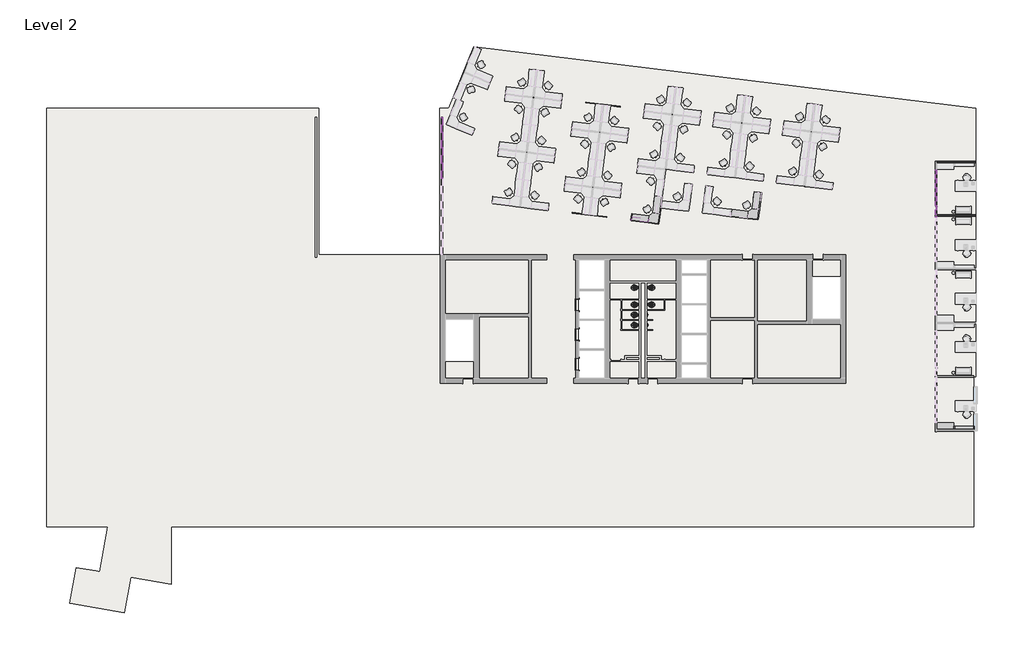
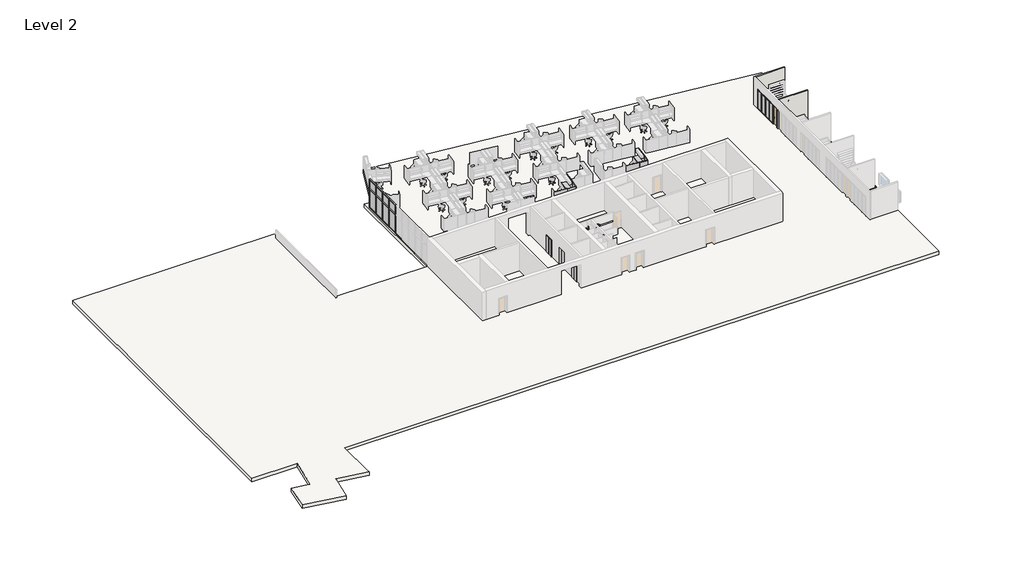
# One storey, part 4 of 7: 51 members, 17 plates, 8 flow terminals, 5 furniture elements, 3 proxies, 3 walls, 1 door, 1 slab.
"""IFC4 building model written with IfcOpenShell, lengths in millimetres."""

from ifc_helpers import new_model, si_unit, frame, origin, place, context, project, spatial, polyline, outline, extrude, faceted_brep, transform, mapped, element, save
from components import proxy_7fed659c, curtain_wall_sgl_glass_curtain_wall_sgl_glass_5192a5a3, flow_terminal_184afdea, flow_terminal_4365df9b, urinal_wall_3d_urinal_wall_3d_30f61b9e, furniture_894c625b, overhead_shelving_module_overhead_shelving_module_7dcda1b9, furniture_6d145fab, furniture_7b33082a, member_9597caa3, member_b2bde9e6, member_ee409385, member_7ffbafd8, member_47ea2df9, member_5507c937, member_0e55f5ff, member_6d48148e, member_7899ddbe, member_c64c2408, member_866a01fa, member_fbf8c6f0, member_13474e0d, member_d7472725, system_panel_glazed_f9de1280, system_panel_glazed_6896c6c0, system_panel_glazed_7f340023, system_panel_glazed_f79f5f4b, system_panel_glazed_02b69887, system_panel_glazed_e5c5d69c

model = new_model("IFC4")

# Units and contexts
model_context = context("Model", 3, world=origin())
ifc_project = project(units=[si_unit("LENGTHUNIT", "METRE", prefix="MILLI")], contexts=[model_context])

# Site, building, storey
site = spatial("IfcSite", under=ifc_project)
building = spatial("IfcBuilding", under=site)
storey = spatial("IfcBuildingStorey", under=building, Name="Level 2", Elevation=3657.6)

# Proxies
placement = place(None, origin())
proxy_shape = proxy_7fed659c(model_context)
element("IfcBuildingElementProxy", 1, Name="Elevator%20Door-Center[1] : 42\" x 84\"", ObjectType="Elevator%20Door-Center[1] : 42\" x 84\"", at=placement, inside=storey, context=model_context, shape_type="MappedRepresentation", body=[
    mapped(proxy_shape, transform((-20852.1285069, -7663.0747049, 3657.6), x_axis=(0.0, 1.0, 0.0), y_axis=(-1.0, 0.0, 0.0), z_axis=(0.0, 0.0, 1.0))),
])
element("IfcBuildingElementProxy", 2, Name="Elevator%20Door-Center[1] : 42\" x 84\"", ObjectType="Elevator%20Door-Center[1] : 42\" x 84\"", at=placement, inside=storey, context=model_context, shape_type="MappedRepresentation", body=[
    mapped(proxy_shape, transform((-20852.1285069, -10330.0747049, 3657.6), x_axis=(0.0, 1.0, 0.0), y_axis=(-1.0, 0.0, 0.0), z_axis=(0.0, 0.0, 1.0))),
])
element("IfcBuildingElementProxy", 3, Name="Elevator%20Door-Center[1] : 42\" x 84\"", ObjectType="Elevator%20Door-Center[1] : 42\" x 84\"", at=placement, inside=storey, context=model_context, shape_type="MappedRepresentation", body=[
    mapped(proxy_shape, transform((-20852.1285069, -12997.0747049, 3657.6), x_axis=(0.0, 1.0, 0.0), y_axis=(-1.0, 0.0, 0.0), z_axis=(0.0, 0.0, 1.0))),
])

# Door
curtain_wall_sgl_glass_curtain_wall_sgl_glass_shape = curtain_wall_sgl_glass_curtain_wall_sgl_glass_5192a5a3(model_context)
element("IfcDoor", 4, ObjectType="Curtain Wall Sgl Glass : Curtain Wall Sgl Glass", at=placement, inside=storey, context=model_context, shape_type="MappedRepresentation", body=[
    mapped(curtain_wall_sgl_glass_curtain_wall_sgl_glass_shape, transform((11449.2054088, 794.2100525, 3657.6), x_axis=(0.0, -1.0, 0.0), y_axis=(1.0, 0.0, 0.0), z_axis=(0.0, 0.0, 1.0))),
])

# Flow terminals
flow_terminal_shape = flow_terminal_184afdea(model_context)
element("IfcFlowTerminal", 5, ObjectType="Toilet-Commercial-Wall-3D : 15\" Seat Height", at=placement, inside=storey, context=model_context, shape_type="MappedRepresentation", body=[
    mapped(flow_terminal_shape, transform((-14687.1856498, -7335.0821954, 3657.6), x_axis=(0.0, -1.0, 0.0), y_axis=(1.0, 0.0, 0.0), z_axis=(0.0, 0.0, 1.0))),
])
element("IfcFlowTerminal", 6, ObjectType="Toilet-Commercial-Wall-3D : 15\" Seat Height", at=placement, inside=storey, context=model_context, shape_type="MappedRepresentation", body=[
    mapped(flow_terminal_shape, transform((-14687.1856498, -5795.2071954, 3657.6), x_axis=(0.0, -1.0, 0.0), y_axis=(1.0, 0.0, 0.0), z_axis=(0.0, 0.0, 1.0))),
])
flow_terminal_2_shape = flow_terminal_4365df9b(model_context)
element("IfcFlowTerminal", 7, ObjectType="Toilet-Commercial-Wall-3D : 15\" Seat Height", at=placement, inside=storey, context=model_context, shape_type="MappedRepresentation", body=[
    mapped(flow_terminal_2_shape, transform((-15195.1856498, -9163.8821954, 3657.6), x_axis=(0.0, -1.0, 0.0), y_axis=(1.0, 0.0, 0.0), z_axis=(0.0, 0.0, 1.0))),
])
element("IfcFlowTerminal", 8, ObjectType="Toilet-Commercial-Wall-3D : 15\" Seat Height", at=placement, inside=storey, context=model_context, shape_type="MappedRepresentation", body=[
    mapped(flow_terminal_2_shape, transform((-15195.1856498, -7335.0821954, 3657.6), x_axis=(0.0, -1.0, 0.0), y_axis=(1.0, 0.0, 0.0), z_axis=(0.0, 0.0, 1.0))),
])
element("IfcFlowTerminal", 9, ObjectType="Toilet-Commercial-Wall-3D : 15\" Seat Height", at=placement, inside=storey, context=model_context, shape_type="MappedRepresentation", body=[
    mapped(flow_terminal_2_shape, transform((-15195.1856498, -5795.2071954, 3657.6), x_axis=(0.0, -1.0, 0.0), y_axis=(1.0, 0.0, 0.0), z_axis=(0.0, 0.0, 1.0))),
])
element("IfcFlowTerminal", 10, ObjectType="Toilet-Commercial-Wall-3D : 15\" Seat Height", at=placement, inside=storey, context=model_context, shape_type="MappedRepresentation", body=[
    mapped(flow_terminal_2_shape, transform((-15195.1856498, -8249.4821954, 3657.6), x_axis=(0.0, -1.0, 0.0), y_axis=(1.0, 0.0, 0.0), z_axis=(0.0, 0.0, 1.0))),
])
urinal_wall_3d_urinal_wall_3d_shape = urinal_wall_3d_urinal_wall_3d_30f61b9e(model_context)
element("IfcFlowTerminal", 11, ObjectType="Urinal-Wall-3D : Urinal-Wall-3D", at=placement, inside=storey, context=model_context, shape_type="MappedRepresentation", body=[
    mapped(urinal_wall_3d_urinal_wall_3d_shape, transform((-14687.1856498, -9677.6027747, 3048.0), x_axis=(0.0, -1.0, 0.0), y_axis=(1.0, 0.0, 0.0), z_axis=(0.0, 0.0, 1.0))),
])
element("IfcFlowTerminal", 12, ObjectType="Urinal-Wall-3D : Urinal-Wall-3D", at=placement, inside=storey, context=model_context, shape_type="MappedRepresentation", body=[
    mapped(urinal_wall_3d_urinal_wall_3d_shape, transform((-14687.1856498, -8763.2027747, 3048.0), x_axis=(0.0, -1.0, 0.0), y_axis=(1.0, 0.0, 0.0), z_axis=(0.0, 0.0, 1.0))),
])

# Furniture
furniture_shape = furniture_894c625b(model_context)
element("IfcFurniture", 13, ObjectType="Credenza : 60\" x 24\"", at=placement, inside=storey, context=model_context, shape_type="MappedRepresentation", body=[
    mapped(furniture_shape, transform((12221.5111465, -18676.6574776, 3657.6), x_axis=(1.0, 0.0, 0.0), y_axis=(0.0, 1.0, 0.0), z_axis=(0.0, 0.0, 1.0))),
])
overhead_shelving_module_overhead_shelving_module_shape = overhead_shelving_module_overhead_shelving_module_7dcda1b9(model_context)
element("IfcFurniture", 14, ObjectType="Overhead Shelving Module : Overhead Shelving Module", at=placement, inside=storey, context=model_context, shape_type="MappedRepresentation", body=[
    mapped(overhead_shelving_module_overhead_shelving_module_shape, transform((-15035.7996968, -17.0868363, 3505.2), x_axis=(0.9925461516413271, -0.12186934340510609, 0.0), y_axis=(0.12186934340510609, 0.9925461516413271, 0.0), z_axis=(0.0, 0.0, 1.0))),
])
furniture_2_shape = furniture_6d145fab(model_context)
element("IfcFurniture", 15, ObjectType="Shelving : 96\" x 12\" x 84\"", at=placement, inside=storey, context=model_context, shape_type="MappedRepresentation", body=[
    mapped(furniture_2_shape, transform((13982.8554088, -19129.2771498, 3657.6), x_axis=(1.0, 0.0, 0.0), y_axis=(0.0, 1.0, 0.0), z_axis=(0.0, 0.0, 1.0))),
])
furniture_3_shape = furniture_7b33082a(model_context)
element("IfcFurniture", 16, ObjectType="Work Station Cubicle : 96\" x 96\"", at=placement, inside=storey, context=model_context, shape_type="MappedRepresentation", body=[
    mapped(furniture_3_shape, transform((-13005.6651945, -422.753661, 3657.6), x_axis=(0.12186934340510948, 0.9925461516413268, 0.0), y_axis=(-0.9925461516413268, 0.12186934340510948, 0.0), z_axis=(0.0, 0.0, 1.0))),
])
element("IfcFurniture", 17, ObjectType="Work Station Cubicle : 96\" x 96\"", at=placement, inside=storey, context=model_context, shape_type="MappedRepresentation", body=[
    mapped(furniture_3_shape, transform((-4053.6335534, -44.4423201, 3657.6), x_axis=(0.1218693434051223, 0.9925461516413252, 0.0), y_axis=(-0.9925461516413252, 0.1218693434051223, 0.0), z_axis=(0.0, 0.0, 1.0))),
])

# Members
member_shape = member_9597caa3(model_context)
element("IfcMember", 18, ObjectType="Rectangular Mullion : 2.5\" x 5\" rectangular", at=placement, inside=storey, context=model_context, shape_type="MappedRepresentation", body=[
    mapped(member_shape, transform((11449.2054088, 1195.5300525, 3721.1), x_axis=(0.0, 1.0, 0.0), y_axis=(1.0, 0.0, 0.0), z_axis=(0.0, 0.0, -1.0))),
])
element("IfcMember", 19, ObjectType="Rectangular Mullion : 2.5\" x 5\" rectangular", at=placement, inside=storey, context=model_context, shape_type="MappedRepresentation", body=[
    mapped(member_shape, transform((11449.2054088, 1998.1700525, 3721.1), x_axis=(0.0, 1.0, 0.0), y_axis=(1.0, 0.0, 0.0), z_axis=(0.0, 0.0, -1.0))),
])
element("IfcMember", 20, ObjectType="Rectangular Mullion : 2.5\" x 5\" rectangular", at=placement, inside=storey, context=model_context, shape_type="MappedRepresentation", body=[
    mapped(member_shape, transform((11449.2054088, 2800.8100525, 3721.1), x_axis=(0.0, 1.0, 0.0), y_axis=(1.0, 0.0, 0.0), z_axis=(0.0, 0.0, -1.0))),
])
element("IfcMember", 21, ObjectType="Rectangular Mullion : 2.5\" x 5\" rectangular", at=placement, inside=storey, context=model_context, shape_type="MappedRepresentation", body=[
    mapped(member_shape, transform((11449.2054088, 3603.4500525, 3721.1), x_axis=(0.0, 1.0, 0.0), y_axis=(1.0, 0.0, 0.0), z_axis=(0.0, 0.0, -1.0))),
])
element("IfcMember", 22, ObjectType="Rectangular Mullion : 2.5\" x 5\" rectangular", at=placement, inside=storey, context=model_context, shape_type="MappedRepresentation", body=[
    mapped(member_shape, transform((-33055.0142212, 7776.9452064, 3721.1), x_axis=(0.0, -1.0, 0.0), y_axis=(-1.0, 0.0, 0.0), z_axis=(0.0, 0.0, -1.0))),
])
element("IfcMember", 23, ObjectType="Rectangular Mullion : 2.5\" x 5\" rectangular", at=placement, inside=storey, context=model_context, shape_type="MappedRepresentation", body=[
    mapped(member_shape, transform((-33055.0142212, 6399.7007619, 3721.1), x_axis=(0.0, -1.0, 0.0), y_axis=(-1.0, 0.0, 0.0), z_axis=(0.0, 0.0, -1.0))),
])
element("IfcMember", 24, ObjectType="Rectangular Mullion : 2.5\" x 5\" rectangular", at=placement, inside=storey, context=model_context, shape_type="MappedRepresentation", body=[
    mapped(member_shape, transform((-33055.0142212, 5022.4563175, 3721.1), x_axis=(0.0, -1.0, 0.0), y_axis=(-1.0, 0.0, 0.0), z_axis=(0.0, 0.0, -1.0))),
])
element("IfcMember", 25, ObjectType="Rectangular Mullion : 2.5\" x 5\" rectangular", at=placement, inside=storey, context=model_context, shape_type="MappedRepresentation", body=[
    mapped(member_shape, transform((-33055.0142212, 3645.211873, 3721.1), x_axis=(0.0, -1.0, 0.0), y_axis=(-1.0, 0.0, 0.0), z_axis=(0.0, 0.0, -1.0))),
])
member_2_shape = member_b2bde9e6(model_context)
element("IfcMember", 26, ObjectType="Rectangular Mullion : 2.5\" x 5\" rectangular", at=placement, inside=storey, context=model_context, shape_type="MappedRepresentation", body=[
    mapped(member_2_shape, transform((11449.2054088, 4437.8400525, 3721.1), x_axis=(0.0, 1.0, 0.0), y_axis=(1.0, 0.0, 0.0), z_axis=(0.0, 0.0, -1.0))),
])
element("IfcMember", 27, ObjectType="Rectangular Mullion : 2.5\" x 5\" rectangular", at=placement, inside=storey, context=model_context, shape_type="MappedRepresentation", body=[
    mapped(member_2_shape, transform((-33055.0142212, 9154.1896508, 6096.0), x_axis=(0.0, 1.0, 0.0), y_axis=(-1.0, 0.0, 0.0), z_axis=(0.0, 0.0, 1.0))),
])
member_3_shape = member_ee409385(model_context)
element("IfcMember", 28, ObjectType="Rectangular Mullion : 2.5\" x 5\" rectangular", at=placement, inside=storey, context=model_context, shape_type="MappedRepresentation", body=[
    mapped(member_3_shape, transform((11449.2054088, 361.1400525, 6096.0), x_axis=(0.0, -1.0, 0.0), y_axis=(1.0, 0.0, 0.0), z_axis=(0.0, 0.0, 1.0))),
])
element("IfcMember", 29, ObjectType="Rectangular Mullion : 2.5\" x 5\" rectangular", at=placement, inside=storey, context=model_context, shape_type="MappedRepresentation", body=[
    mapped(member_3_shape, transform((11449.2054088, 221.4400525, 6096.0), x_axis=(0.0, 1.0, 0.0), y_axis=(-1.0, 0.0, 0.0), z_axis=(0.0, 0.0, 1.0))),
])
member_4_shape = member_7ffbafd8(model_context)
element("IfcMember", 30, ObjectType="Rectangular Mullion : 2.5\" x 5\" rectangular", at=placement, inside=storey, context=model_context, shape_type="MappedRepresentation", body=[
    mapped(member_4_shape, transform((11449.2054088, 4437.8400525, 6197.6), x_axis=(0.0, 0.0, 1.0), y_axis=(1.0, 0.0, 0.0), z_axis=(0.0, 1.0, 0.0))),
])
element("IfcMember", 31, ObjectType="Rectangular Mullion : 2.5\" x 5\" rectangular", at=placement, inside=storey, context=model_context, shape_type="MappedRepresentation", body=[
    mapped(member_4_shape, transform((11449.2054088, 1195.5300525, 6197.6), x_axis=(0.0, 0.0, 1.0), y_axis=(1.0, 0.0, 0.0), z_axis=(0.0, 1.0, 0.0))),
])
element("IfcMember", 32, ObjectType="Rectangular Mullion : 2.5\" x 5\" rectangular", at=placement, inside=storey, context=model_context, shape_type="MappedRepresentation", body=[
    mapped(member_4_shape, transform((11449.2054088, 1163.7800525, 3657.6), x_axis=(0.0, 0.0, -1.0), y_axis=(1.0, 0.0, 0.0), z_axis=(0.0, -1.0, 0.0))),
])
member_5_shape = member_47ea2df9(model_context)
element("IfcMember", 33, ObjectType="Rectangular Mullion : 2.5\" x 5\" rectangular", at=placement, inside=storey, context=model_context, shape_type="MappedRepresentation", body=[
    mapped(member_5_shape, transform((11449.2054088, 1998.1700525, 6096.0), x_axis=(0.0, 0.0, 1.0), y_axis=(1.0, 0.0, 0.0), z_axis=(0.0, 1.0, 0.0))),
])
element("IfcMember", 34, ObjectType="Rectangular Mullion : 2.5\" x 5\" rectangular", at=placement, inside=storey, context=model_context, shape_type="MappedRepresentation", body=[
    mapped(member_5_shape, transform((11449.2054088, 2800.8100525, 6096.0), x_axis=(0.0, 0.0, 1.0), y_axis=(1.0, 0.0, 0.0), z_axis=(0.0, 1.0, 0.0))),
])
element("IfcMember", 35, ObjectType="Rectangular Mullion : 2.5\" x 5\" rectangular", at=placement, inside=storey, context=model_context, shape_type="MappedRepresentation", body=[
    mapped(member_5_shape, transform((11449.2054088, 3603.4500525, 6096.0), x_axis=(0.0, 0.0, 1.0), y_axis=(1.0, 0.0, 0.0), z_axis=(0.0, 1.0, 0.0))),
])
member_6_shape = member_5507c937(model_context)
element("IfcMember", 36, ObjectType="Rectangular Mullion : 2.5\" x 5\" rectangular", at=placement, inside=storey, context=model_context, shape_type="MappedRepresentation", body=[
    mapped(member_6_shape, transform((11449.2054088, 1998.1700525, 6197.6), x_axis=(0.0, 0.0, 1.0), y_axis=(1.0, 0.0, 0.0), z_axis=(0.0, 1.0, 0.0))),
])
element("IfcMember", 37, ObjectType="Rectangular Mullion : 2.5\" x 5\" rectangular", at=placement, inside=storey, context=model_context, shape_type="MappedRepresentation", body=[
    mapped(member_6_shape, transform((11449.2054088, 2800.8100525, 6197.6), x_axis=(0.0, 0.0, 1.0), y_axis=(1.0, 0.0, 0.0), z_axis=(0.0, 1.0, 0.0))),
])
element("IfcMember", 38, ObjectType="Rectangular Mullion : 2.5\" x 5\" rectangular", at=placement, inside=storey, context=model_context, shape_type="MappedRepresentation", body=[
    mapped(member_6_shape, transform((11449.2054088, 3603.4500525, 6197.6), x_axis=(0.0, 0.0, 1.0), y_axis=(1.0, 0.0, 0.0), z_axis=(0.0, 1.0, 0.0))),
])
element("IfcMember", 39, ObjectType="Rectangular Mullion : 2.5\" x 5\" rectangular", at=placement, inside=storey, context=model_context, shape_type="MappedRepresentation", body=[
    mapped(member_6_shape, transform((11449.2054088, 1998.1700525, 3657.6), x_axis=(0.0, 0.0, -1.0), y_axis=(1.0, 0.0, 0.0), z_axis=(0.0, -1.0, 0.0))),
])
element("IfcMember", 40, ObjectType="Rectangular Mullion : 2.5\" x 5\" rectangular", at=placement, inside=storey, context=model_context, shape_type="MappedRepresentation", body=[
    mapped(member_6_shape, transform((11449.2054088, 2800.8100525, 3657.6), x_axis=(0.0, 0.0, -1.0), y_axis=(1.0, 0.0, 0.0), z_axis=(0.0, -1.0, 0.0))),
])
element("IfcMember", 41, ObjectType="Rectangular Mullion : 2.5\" x 5\" rectangular", at=placement, inside=storey, context=model_context, shape_type="MappedRepresentation", body=[
    mapped(member_4_shape, transform((11449.2054088, 3603.4500525, 3657.6), x_axis=(0.0, 0.0, -1.0), y_axis=(1.0, 0.0, 0.0), z_axis=(0.0, -1.0, 0.0))),
])
member_7_shape = member_0e55f5ff(model_context)
element("IfcMember", 42, ObjectType="Rectangular Mullion : 2.5\" x 5\" rectangular", at=placement, inside=storey, context=model_context, shape_type="MappedRepresentation", body=[
    mapped(member_7_shape, transform((11449.2054088, 4374.3400525, 6096.0), x_axis=(0.0, 0.0, 1.0), y_axis=(1.0, 0.0, 0.0), z_axis=(0.0, 1.0, 0.0))),
])
element("IfcMember", 43, ObjectType="Rectangular Mullion : 2.5\" x 5\" rectangular", at=placement, inside=storey, context=model_context, shape_type="MappedRepresentation", body=[
    mapped(member_7_shape, transform((11449.2054088, 1195.5300525, 6096.0), x_axis=(0.0, 0.0, 1.0), y_axis=(1.0, 0.0, 0.0), z_axis=(0.0, 1.0, 0.0))),
])
member_8_shape = member_6d48148e(model_context)
element("IfcMember", 44, ObjectType="Rectangular Mullion : 2.5\" x 5\" rectangular", at=placement, inside=storey, context=model_context, shape_type="MappedRepresentation", body=[
    mapped(member_8_shape, transform((11449.2054088, 1195.5300525, 6127.75), x_axis=(0.0, 1.0, 0.0), y_axis=(1.0, 0.0, 0.0), z_axis=(0.0, 0.0, -1.0))),
])
element("IfcMember", 45, ObjectType="Rectangular Mullion : 2.5\" x 5\" rectangular", at=placement, inside=storey, context=model_context, shape_type="MappedRepresentation", body=[
    mapped(member_8_shape, transform((11449.2054088, 1998.1700525, 6127.75), x_axis=(0.0, 1.0, 0.0), y_axis=(1.0, 0.0, 0.0), z_axis=(0.0, 0.0, -1.0))),
])
element("IfcMember", 46, ObjectType="Rectangular Mullion : 2.5\" x 5\" rectangular", at=placement, inside=storey, context=model_context, shape_type="MappedRepresentation", body=[
    mapped(member_8_shape, transform((11449.2054088, 2800.8100525, 6127.75), x_axis=(0.0, 1.0, 0.0), y_axis=(1.0, 0.0, 0.0), z_axis=(0.0, 0.0, -1.0))),
])
element("IfcMember", 47, ObjectType="Rectangular Mullion : 2.5\" x 5\" rectangular", at=placement, inside=storey, context=model_context, shape_type="MappedRepresentation", body=[
    mapped(member_8_shape, transform((11449.2054088, 3603.4500525, 6127.75), x_axis=(0.0, 1.0, 0.0), y_axis=(1.0, 0.0, 0.0), z_axis=(0.0, 0.0, -1.0))),
])
member_9_shape = member_7899ddbe(model_context)
element("IfcMember", 48, ObjectType="Rectangular Mullion : 2.5\" x 5\" rectangular", at=placement, inside=storey, context=model_context, shape_type="MappedRepresentation", body=[
    mapped(member_9_shape, transform((11449.2054088, 4437.8400525, 6096.0), x_axis=(0.0, 1.0, 0.0), y_axis=(1.0, 0.0, 0.0), z_axis=(0.0, 0.0, -1.0))),
])
element("IfcMember", 49, ObjectType="Rectangular Mullion : 2.5\" x 5\" rectangular", at=placement, inside=storey, context=model_context, shape_type="MappedRepresentation", body=[
    mapped(member_9_shape, transform((11449.2054088, 361.1400525, 6134.1), x_axis=(0.0, -1.0, 0.0), y_axis=(1.0, 0.0, 0.0), z_axis=(0.0, 0.0, 1.0))),
])
element("IfcMember", 50, ObjectType="Rectangular Mullion : 2.5\" x 5\" rectangular", at=placement, inside=storey, context=model_context, shape_type="MappedRepresentation", body=[
    mapped(member_9_shape, transform((11449.2054088, 221.4400525, 6134.1), x_axis=(0.0, 1.0, 0.0), y_axis=(-1.0, 0.0, 0.0), z_axis=(0.0, 0.0, 1.0))),
])
member_10_shape = member_c64c2408(model_context)
element("IfcMember", 51, ObjectType="Rectangular Mullion : 2.5\" x 5\" rectangular", at=placement, inside=storey, context=model_context, shape_type="MappedRepresentation", body=[
    mapped(member_10_shape, transform((-33055.0142212, 9154.1896508, 3657.6), x_axis=(0.0, 0.0, -1.0), y_axis=(-1.0, 0.0, 0.0), z_axis=(0.0, 1.0, 0.0))),
])
element("IfcMember", 52, ObjectType="Rectangular Mullion : 2.5\" x 5\" rectangular", at=placement, inside=storey, context=model_context, shape_type="MappedRepresentation", body=[
    mapped(member_10_shape, transform((-33055.0142212, 7776.9452064, 7315.2), x_axis=(0.0, 0.0, 1.0), y_axis=(-1.0, 0.0, 0.0), z_axis=(0.0, -1.0, 0.0))),
])
element("IfcMember", 53, ObjectType="Rectangular Mullion : 2.5\" x 5\" rectangular", at=placement, inside=storey, context=model_context, shape_type="MappedRepresentation", body=[
    mapped(member_10_shape, transform((-33055.0142212, 6399.7007619, 7315.2), x_axis=(0.0, 0.0, 1.0), y_axis=(-1.0, 0.0, 0.0), z_axis=(0.0, -1.0, 0.0))),
])
element("IfcMember", 54, ObjectType="Rectangular Mullion : 2.5\" x 5\" rectangular", at=placement, inside=storey, context=model_context, shape_type="MappedRepresentation", body=[
    mapped(member_10_shape, transform((-33055.0142212, 5022.4563175, 7315.2), x_axis=(0.0, 0.0, 1.0), y_axis=(-1.0, 0.0, 0.0), z_axis=(0.0, -1.0, 0.0))),
])
element("IfcMember", 55, ObjectType="Rectangular Mullion : 2.5\" x 5\" rectangular", at=placement, inside=storey, context=model_context, shape_type="MappedRepresentation", body=[
    mapped(member_10_shape, transform((-33055.0142212, 3645.211873, 7315.2), x_axis=(0.0, 0.0, 1.0), y_axis=(-1.0, 0.0, 0.0), z_axis=(0.0, -1.0, 0.0))),
])
element("IfcMember", 56, ObjectType="Rectangular Mullion : 2.5\" x 5\" rectangular", at=placement, inside=storey, context=model_context, shape_type="MappedRepresentation", body=[
    mapped(member_10_shape, transform((-33055.0142212, 7776.9452064, 3657.6), x_axis=(0.0, 0.0, -1.0), y_axis=(-1.0, 0.0, 0.0), z_axis=(0.0, 1.0, 0.0))),
])
element("IfcMember", 57, ObjectType="Rectangular Mullion : 2.5\" x 5\" rectangular", at=placement, inside=storey, context=model_context, shape_type="MappedRepresentation", body=[
    mapped(member_10_shape, transform((-33055.0142212, 6399.7007619, 3657.6), x_axis=(0.0, 0.0, -1.0), y_axis=(-1.0, 0.0, 0.0), z_axis=(0.0, 1.0, 0.0))),
])
element("IfcMember", 58, ObjectType="Rectangular Mullion : 2.5\" x 5\" rectangular", at=placement, inside=storey, context=model_context, shape_type="MappedRepresentation", body=[
    mapped(member_10_shape, transform((-33055.0142212, 5022.4563175, 3657.6), x_axis=(0.0, 0.0, -1.0), y_axis=(-1.0, 0.0, 0.0), z_axis=(0.0, 1.0, 0.0))),
])
element("IfcMember", 59, ObjectType="Rectangular Mullion : 2.5\" x 5\" rectangular", at=placement, inside=storey, context=model_context, shape_type="MappedRepresentation", body=[
    mapped(member_10_shape, transform((-33055.0142212, 3645.211873, 3657.6), x_axis=(0.0, 0.0, -1.0), y_axis=(-1.0, 0.0, 0.0), z_axis=(0.0, 1.0, 0.0))),
])
member_11_shape = member_866a01fa(model_context)
element("IfcMember", 60, ObjectType="Rectangular Mullion : 2.5\" x 5\" rectangular", at=placement, inside=storey, context=model_context, shape_type="MappedRepresentation", body=[
    mapped(member_11_shape, transform((-33055.0142212, 7776.9452064, 6127.75), x_axis=(0.0, -1.0, 0.0), y_axis=(-1.0, 0.0, 0.0), z_axis=(0.0, 0.0, -1.0))),
])
element("IfcMember", 61, ObjectType="Rectangular Mullion : 2.5\" x 5\" rectangular", at=placement, inside=storey, context=model_context, shape_type="MappedRepresentation", body=[
    mapped(member_11_shape, transform((-33055.0142212, 6399.7007619, 6127.75), x_axis=(0.0, -1.0, 0.0), y_axis=(-1.0, 0.0, 0.0), z_axis=(0.0, 0.0, -1.0))),
])
element("IfcMember", 62, ObjectType="Rectangular Mullion : 2.5\" x 5\" rectangular", at=placement, inside=storey, context=model_context, shape_type="MappedRepresentation", body=[
    mapped(member_11_shape, transform((-33055.0142212, 5022.4563175, 6127.75), x_axis=(0.0, -1.0, 0.0), y_axis=(-1.0, 0.0, 0.0), z_axis=(0.0, 0.0, -1.0))),
])
element("IfcMember", 63, ObjectType="Rectangular Mullion : 2.5\" x 5\" rectangular", at=placement, inside=storey, context=model_context, shape_type="MappedRepresentation", body=[
    mapped(member_11_shape, transform((-33055.0142212, 3645.211873, 6127.75), x_axis=(0.0, -1.0, 0.0), y_axis=(-1.0, 0.0, 0.0), z_axis=(0.0, 0.0, -1.0))),
])
member_12_shape = member_fbf8c6f0(model_context)
element("IfcMember", 64, ObjectType="Rectangular Mullion : 2.5\" x 5\" rectangular", at=placement, inside=storey, context=model_context, shape_type="MappedRepresentation", body=[
    mapped(member_12_shape, transform((-33055.0142212, 7776.9452064, 6096.0), x_axis=(0.0, 0.0, 1.0), y_axis=(-1.0, 0.0, 0.0), z_axis=(0.0, -1.0, 0.0))),
])
member_13_shape = member_13474e0d(model_context)
element("IfcMember", 65, ObjectType="Rectangular Mullion : 2.5\" x 5\" rectangular", at=placement, inside=storey, context=model_context, shape_type="MappedRepresentation", body=[
    mapped(member_13_shape, transform((-33055.0142212, 6399.7007619, 6096.0), x_axis=(0.0, 0.0, 1.0), y_axis=(-1.0, 0.0, 0.0), z_axis=(0.0, -1.0, 0.0))),
])
element("IfcMember", 66, ObjectType="Rectangular Mullion : 2.5\" x 5\" rectangular", at=placement, inside=storey, context=model_context, shape_type="MappedRepresentation", body=[
    mapped(member_13_shape, transform((-33055.0142212, 5022.4563175, 6096.0), x_axis=(0.0, 0.0, 1.0), y_axis=(-1.0, 0.0, 0.0), z_axis=(0.0, -1.0, 0.0))),
])
element("IfcMember", 67, ObjectType="Rectangular Mullion : 2.5\" x 5\" rectangular", at=placement, inside=storey, context=model_context, shape_type="MappedRepresentation", body=[
    mapped(member_13_shape, transform((-33055.0142212, 3645.211873, 6096.0), x_axis=(0.0, 0.0, 1.0), y_axis=(-1.0, 0.0, 0.0), z_axis=(0.0, -1.0, 0.0))),
])
member_14_shape = member_d7472725(model_context)
element("IfcMember", 68, ObjectType="Rectangular Mullion : 2.5\" x 5\" rectangular", at=placement, inside=storey, context=model_context, shape_type="MappedRepresentation", body=[
    mapped(member_14_shape, transform((-33055.0142212, 9154.1896508, 7251.7), x_axis=(0.0, 1.0, 0.0), y_axis=(-1.0, 0.0, 0.0), z_axis=(0.0, 0.0, 1.0))),
])

# Plates
system_panel_glazed_shape = system_panel_glazed_f9de1280(model_context)
element("IfcPlate", 69, ObjectType="System Panel : Glazed", at=placement, inside=storey, context=model_context, shape_type="MappedRepresentation", body=[
    mapped(system_panel_glazed_shape, transform((11449.2054088, 1596.8500525, 3721.1), x_axis=(0.0, 1.0, 0.0), y_axis=(-1.0, 0.0, 0.0), z_axis=(0.0, 0.0, 1.0))),
])
element("IfcPlate", 70, ObjectType="System Panel : Glazed", at=placement, inside=storey, context=model_context, shape_type="MappedRepresentation", body=[
    mapped(system_panel_glazed_shape, transform((11449.2054088, 2399.4900525, 3721.1), x_axis=(0.0, 1.0, 0.0), y_axis=(-1.0, 0.0, 0.0), z_axis=(0.0, 0.0, 1.0))),
])
element("IfcPlate", 71, ObjectType="System Panel : Glazed", at=placement, inside=storey, context=model_context, shape_type="MappedRepresentation", body=[
    mapped(system_panel_glazed_shape, transform((11449.2054088, 3202.1300525, 3721.1), x_axis=(0.0, 1.0, 0.0), y_axis=(-1.0, 0.0, 0.0), z_axis=(0.0, 0.0, 1.0))),
])
element("IfcPlate", 72, ObjectType="System Panel : Glazed", at=placement, inside=storey, context=model_context, shape_type="MappedRepresentation", body=[
    mapped(system_panel_glazed_shape, transform((11449.2054088, 4004.7700525, 3721.1), x_axis=(0.0, 1.0, 0.0), y_axis=(-1.0, 0.0, 0.0), z_axis=(0.0, 0.0, 1.0))),
])
system_panel_glazed_2_shape = system_panel_glazed_6896c6c0(model_context)
element("IfcPlate", 73, ObjectType="System Panel : Glazed", at=placement, inside=storey, context=model_context, shape_type="MappedRepresentation", body=[
    mapped(system_panel_glazed_2_shape, transform((11449.2054088, 794.2100525, 6127.75), x_axis=(0.0, 1.0, 0.0), y_axis=(-1.0, 0.0, 0.0), z_axis=(0.0, 0.0, 1.0))),
])
element("IfcPlate", 74, ObjectType="System Panel : Glazed", at=placement, inside=storey, context=model_context, shape_type="MappedRepresentation", body=[
    mapped(system_panel_glazed_2_shape, transform((11449.2054088, 1596.8500525, 6127.75), x_axis=(0.0, 1.0, 0.0), y_axis=(-1.0, 0.0, 0.0), z_axis=(0.0, 0.0, 1.0))),
])
element("IfcPlate", 75, ObjectType="System Panel : Glazed", at=placement, inside=storey, context=model_context, shape_type="MappedRepresentation", body=[
    mapped(system_panel_glazed_2_shape, transform((11449.2054088, 2399.4900525, 6127.75), x_axis=(0.0, 1.0, 0.0), y_axis=(-1.0, 0.0, 0.0), z_axis=(0.0, 0.0, 1.0))),
])
element("IfcPlate", 76, ObjectType="System Panel : Glazed", at=placement, inside=storey, context=model_context, shape_type="MappedRepresentation", body=[
    mapped(system_panel_glazed_2_shape, transform((11449.2054088, 3202.1300525, 6127.75), x_axis=(0.0, 1.0, 0.0), y_axis=(-1.0, 0.0, 0.0), z_axis=(0.0, 0.0, 1.0))),
])
element("IfcPlate", 77, ObjectType="System Panel : Glazed", at=placement, inside=storey, context=model_context, shape_type="MappedRepresentation", body=[
    mapped(system_panel_glazed_2_shape, transform((11449.2054088, 4004.7700525, 6127.75), x_axis=(0.0, 1.0, 0.0), y_axis=(-1.0, 0.0, 0.0), z_axis=(0.0, 0.0, 1.0))),
])
system_panel_glazed_3_shape = system_panel_glazed_7f340023(model_context)
element("IfcPlate", 78, ObjectType="System Panel : Glazed", at=placement, inside=storey, context=model_context, shape_type="MappedRepresentation", body=[
    mapped(system_panel_glazed_3_shape, transform((-33055.0142212, 8449.6924286, 3721.1), x_axis=(0.0, -1.0, 0.0), y_axis=(1.0, 0.0, 0.0), z_axis=(0.0, 0.0, 1.0))),
])
system_panel_glazed_4_shape = system_panel_glazed_f79f5f4b(model_context)
element("IfcPlate", 79, ObjectType="System Panel : Glazed", at=placement, inside=storey, context=model_context, shape_type="MappedRepresentation", body=[
    mapped(system_panel_glazed_4_shape, transform((-33055.0142212, 7088.3229841, 3721.1), x_axis=(0.0, -1.0, 0.0), y_axis=(1.0, 0.0, 0.0), z_axis=(0.0, 0.0, 1.0))),
])
element("IfcPlate", 80, ObjectType="System Panel : Glazed", at=placement, inside=storey, context=model_context, shape_type="MappedRepresentation", body=[
    mapped(system_panel_glazed_4_shape, transform((-33055.0142212, 5711.0785397, 3721.1), x_axis=(0.0, -1.0, 0.0), y_axis=(1.0, 0.0, 0.0), z_axis=(0.0, 0.0, 1.0))),
])
element("IfcPlate", 81, ObjectType="System Panel : Glazed", at=placement, inside=storey, context=model_context, shape_type="MappedRepresentation", body=[
    mapped(system_panel_glazed_4_shape, transform((-33055.0142212, 4333.8340952, 3721.1), x_axis=(0.0, -1.0, 0.0), y_axis=(1.0, 0.0, 0.0), z_axis=(0.0, 0.0, 1.0))),
])
system_panel_glazed_5_shape = system_panel_glazed_02b69887(model_context)
element("IfcPlate", 82, ObjectType="System Panel : Glazed", at=placement, inside=storey, context=model_context, shape_type="MappedRepresentation", body=[
    mapped(system_panel_glazed_5_shape, transform((-33055.0142212, 8449.6924286, 6127.75), x_axis=(0.0, -1.0, 0.0), y_axis=(1.0, 0.0, 0.0), z_axis=(0.0, 0.0, 1.0))),
])
system_panel_glazed_6_shape = system_panel_glazed_e5c5d69c(model_context)
element("IfcPlate", 83, ObjectType="System Panel : Glazed", at=placement, inside=storey, context=model_context, shape_type="MappedRepresentation", body=[
    mapped(system_panel_glazed_6_shape, transform((-33055.0142212, 7088.3229841, 6127.75), x_axis=(0.0, -1.0, 0.0), y_axis=(1.0, 0.0, 0.0), z_axis=(0.0, 0.0, 1.0))),
])
element("IfcPlate", 84, ObjectType="System Panel : Glazed", at=placement, inside=storey, context=model_context, shape_type="MappedRepresentation", body=[
    mapped(system_panel_glazed_6_shape, transform((-33055.0142212, 5711.0785397, 6127.75), x_axis=(0.0, -1.0, 0.0), y_axis=(1.0, 0.0, 0.0), z_axis=(0.0, 0.0, 1.0))),
])
element("IfcPlate", 85, ObjectType="System Panel : Glazed", at=placement, inside=storey, context=model_context, shape_type="MappedRepresentation", body=[
    mapped(system_panel_glazed_6_shape, transform((-33055.0142212, 4333.8340952, 6127.75), x_axis=(0.0, -1.0, 0.0), y_axis=(1.0, 0.0, 0.0), z_axis=(0.0, 0.0, 1.0))),
])

# Slab
element("IfcSlab", 86, ObjectType="Steel Bar Joist 14\" - Concrete", at=placement, inside=storey, context=model_context, shape_type="Brep", body=[
    faceted_brep([(-68660.7599961, -27742.4853492, 3222.625), (-68660.7599961, -27729.7853492, 3222.625), (-68660.7599961, 9954.2896508, 3222.625), (-44161.1642212, 9954.2896508, 3222.625), (-44161.1642212, -3241.0103492, 3222.625), (-33226.4642212, -3241.0103492, 3222.625), (-33226.4642212, 9954.2896508, 3222.625), (-32787.8895294, 9954.2896508, 3222.625), (-32421.4843139, 9954.2896508, 3222.625), (-30175.817983, 15512.5088637, 3222.625), (-30162.7679787, 15510.9065247, 3222.625), (15043.3054088, 9960.2986536, 3222.625), (15043.3054088, -14142.3728492, 3222.625), (15043.3054088, -14218.4266737, 3222.625), (14830.5804088, -14218.4266737, 3222.625), (14830.5804088, -27729.7853492, 3222.625), (14830.5804088, -27735.220667, 3222.625), (-57076.0875003, -27735.220667, 3222.625), (-57415.8125003, -27735.220667, 3222.625), (-57415.8125003, -32574.9459603, 3222.625), (-57415.8125003, -32919.911766, 3222.625), (-57428.5125003, -32917.6724134, 3222.625), (-61087.9334678, -32272.417763, 3222.625), (-61655.8064208, -35492.9853173, 3222.625), (-61658.0117526, -35505.4923758, 3222.625), (-66538.8913179, -34644.8616188, 3222.625), (-66551.3983764, -34642.656287, 3222.625), (-65983.5254234, -31422.0887327, 3222.625), (-65981.3200915, -31409.5816742, 3222.625), (-64214.6980836, -31721.084799, 3222.625), (-63880.1342697, -31780.0774261, 3222.625), (-63168.1978494, -27742.4853492, 3222.625), (-63513.1636551, -27742.4853492, 3222.625), (-32750.2142212, -9032.2103492, 3222.625), (-32750.2142212, -12842.2103492, 3222.625), (-30166.6713641, -12842.2103492, 3222.625), (-30166.6713641, -9032.2103492, 3222.625), (-20725.1285069, -3698.2103492, 3222.625), (-20725.1285069, -14366.2103492, 3222.625), (-18385.1284437, -14366.2103492, 3222.625), (-18385.1284437, -3698.2103492, 3222.625), (-9157.2427926, -3698.2103492, 3222.625), (-11497.2428559, -3698.2103492, 3222.625), (-11497.2428559, -14366.2103492, 3222.625), (-9157.2427926, -14366.2103492, 3222.625), (2867.8429217, -9032.2103492, 3222.625), (2867.8429217, -5222.2103492, 3222.625), (284.3000645, -5222.2103492, 3222.625), (284.3000645, -9032.2103492, 3222.625), (-68660.7599961, 9954.2896508, 3657.6), (-68660.7599961, -27729.7853492, 3657.6), (-68660.7599961, -27742.4853492, 3657.6), (-63513.1636551, -27742.4853492, 3657.6), (-63168.1978494, -27742.4853492, 3657.6), (-63880.1342697, -31780.0774261, 3657.6), (-64214.6980836, -31721.084799, 3657.6), (-65981.3200915, -31409.5816742, 3657.6), (-65983.5254234, -31422.0887327, 3657.6), (-66551.3983764, -34642.656287, 3657.6), (-66538.8913179, -34644.8616188, 3657.6), (-61658.0117526, -35505.4923758, 3657.6), (-61655.8064208, -35492.9853173, 3657.6), (-61087.9334678, -32272.417763, 3657.6), (-57428.5125003, -32917.6724134, 3657.6), (-57415.8125003, -32919.911766, 3657.6), (-57415.8125003, -32574.9459603, 3657.6), (-57415.8125003, -27735.220667, 3657.6), (-57076.0875003, -27735.220667, 3657.6), (14830.5804088, -27735.220667, 3657.6), (14830.5804088, -27729.7853492, 3657.6), (14830.5804088, -14218.4266737, 3657.6), (15043.3054088, -14218.4266737, 3657.6), (15043.3054088, -14142.3728492, 3657.6), (15043.3054088, 9960.2986536, 3657.6), (-30162.7679787, 15510.9065247, 3657.6), (-30175.817983, 15512.5088637, 3657.6), (-32421.4843139, 9954.2896508, 3657.6), (-32787.8895294, 9954.2896508, 3657.6), (-33226.4642212, 9954.2896508, 3657.6), (-33226.4642212, -3241.0103492, 3657.6), (-44161.1642212, -3241.0103492, 3657.6), (-44161.1642212, 9954.2896508, 3657.6), (-32750.2142212, -12842.2103492, 3657.6), (-32750.2142212, -9032.2103492, 3657.6), (-30166.6713641, -9032.2103492, 3657.6), (-30166.6713641, -12842.2103492, 3657.6), (-20725.1285069, -14366.2103492, 3657.6), (-20725.1285069, -3698.2103492, 3657.6), (-18385.1284437, -3698.2103492, 3657.6), (-18385.1284437, -14366.2103492, 3657.6), (-11497.2428559, -3698.2103492, 3657.6), (-9157.2427926, -3698.2103492, 3657.6), (-9157.2427926, -14366.2103492, 3657.6), (-11497.2428559, -14366.2103492, 3657.6), (2867.8429217, -5222.2103492, 3657.6), (2867.8429217, -9032.2103492, 3657.6), (284.3000645, -9032.2103492, 3657.6), (284.3000645, -5222.2103492, 3657.6)], [[[0, 1, 2, 3, 4, 5, 6, 7, 8, 9, 10, 11, 12, 13, 14, 15, 16, 17, 18, 19, 20, 21, 22, 23, 24, 25, 26, 27, 28, 29, 30, 31, 32], [33, 34, 35, 36], [37, 38, 39, 40], [41, 42, 43, 44], [45, 46, 47, 48]], [[49, 50, 51, 52, 53, 54, 55, 56, 57, 58, 59, 60, 61, 62, 63, 64, 65, 66, 67, 68, 69, 70, 71, 72, 73, 74, 75, 76, 77, 78, 79, 80, 81], [82, 83, 84, 85], [86, 87, 88, 89], [90, 91, 92, 93], [94, 95, 96, 97]], [[2, 1, 0, 51, 50, 49]], [[13, 12, 11, 73, 72, 71]], [[18, 17, 16, 68, 67, 66]], [[20, 19, 18, 66, 65, 64]], [[22, 21, 20, 64, 63, 62]], [[24, 23, 22, 62, 61, 60]], [[26, 25, 24, 60, 59, 58]], [[28, 27, 26, 58, 57, 56]], [[30, 29, 28, 56, 55, 54]], [[31, 30, 54, 53]], [[0, 32, 31, 53, 52, 51]], [[9, 8, 76, 75]], [[11, 10, 9, 75, 74, 73]], [[14, 13, 71, 70]], [[16, 15, 14, 70, 69, 68]], [[33, 83, 82, 34]], [[34, 82, 85, 35]], [[35, 85, 84, 36]], [[83, 33, 36, 84]], [[37, 87, 86, 38]], [[38, 86, 89, 39]], [[39, 89, 88, 40]], [[87, 37, 40, 88]], [[41, 91, 90, 42]], [[42, 90, 93, 43]], [[43, 93, 92, 44]], [[91, 41, 44, 92]], [[45, 95, 94, 46]], [[46, 94, 97, 47]], [[47, 97, 96, 48]], [[95, 45, 48, 96]], [[3, 2, 49, 81]], [[4, 3, 81, 80]], [[5, 4, 80, 79]], [[6, 5, 79, 78]], [[8, 7, 6, 78, 77, 76]]]),
])

# Walls
element("IfcWall", 87, ObjectType="Interior - 5 1/2\" Partition (1-hr)", at=placement, inside=storey, context=model_context, shape_type="SweptSolid", body=[
    extrude(outline(polyline([(11519.0554088, 5195.6443531), (15043.3054088, 5195.6443531), (15043.3054088, 5055.9443531), (11519.0554088, 5055.9443531), (11519.0554088, 5195.6443531)])), frame((0.0, 0.0, 3657.6), z_axis=(0.0, 0.0, 1.0), x_axis=(1.0, 0.0, 0.0)), (0.0, 0.0, 1.0), 3657.6),
])
element("IfcWall", 88, ObjectType="Interior - 5 1/2\" Partition (1-hr)", at=placement, inside=storey, context=model_context, shape_type="SweptSolid", body=[
    extrude(outline(polyline([(11519.0554088, 361.1400525), (15043.3054088, 361.1400525), (15043.3054088, 221.4400525), (11519.0554088, 221.4400525), (11519.0554088, 361.1400525)])), frame((0.0, 0.0, 3657.6), z_axis=(0.0, 0.0, 1.0), x_axis=(1.0, 0.0, 0.0)), (0.0, 0.0, 1.0), 3657.6),
])
element("IfcWall", 89, ObjectType="Interior - 5 1/2\" Partition (1-hr)", at=placement, inside=storey, context=model_context, shape_type="SweptSolid", body=[
    extrude(outline(polyline([(11519.0554088, 361.1400525), (15043.3054088, 361.1400525), (15043.3054088, 221.4400525), (11519.0554088, 221.4400525), (11519.0554088, 361.1400525)])), frame((0.0, 0.0, 3657.6), z_axis=(0.0, 0.0, 1.0), x_axis=(1.0, 0.0, 0.0)), (0.0, 0.0, 1.0), 3657.6),
])

save(model, "model.ifc")
